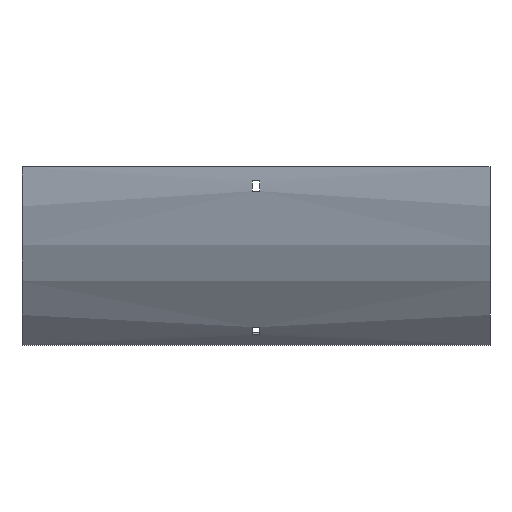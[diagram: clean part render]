
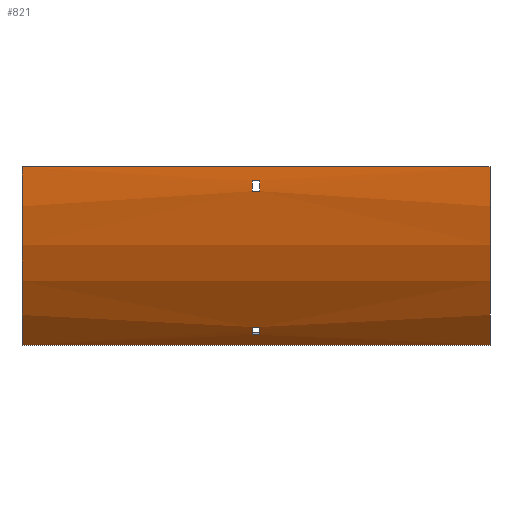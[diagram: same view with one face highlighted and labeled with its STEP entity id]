
A CAD part, front view. The second image highlights one B-rep face of the part: STEP entity #821.
In plain terms, the highlighted cylindrical face has radius 217.5 mm (diameter 435 mm), a partial arc.
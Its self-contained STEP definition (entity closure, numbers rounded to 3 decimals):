
#8 = CIRCLE ( 'NONE', #560, 217.5 ) ;
#28 = CARTESIAN_POINT ( 'NONE',  ( 202., 100., 0. ) ) ;
#43 = DIRECTION ( 'NONE',  ( 0., 0., -1. ) ) ;
#44 = ORIENTED_EDGE ( 'NONE', *, *, #430, .F. ) ;
#108 = DIRECTION ( 'NONE',  ( 0., 0., 1. ) ) ;
#112 = ORIENTED_EDGE ( 'NONE', *, *, #866, .T. ) ;
#114 = CIRCLE ( 'NONE', #768, 217.5 ) ;
#158 = EDGE_LOOP ( 'NONE', ( #959, #200, #1090, #247 ) ) ;
#170 = VECTOR ( 'NONE', #1234, 1000. ) ;
#195 = CARTESIAN_POINT ( 'NONE',  ( 202., -67.926, -138.228 ) ) ;
#200 = ORIENTED_EDGE ( 'NONE', *, *, #919, .F. ) ;
#201 = DIRECTION ( 'NONE',  ( -1., 0., 0. ) ) ;
#211 = CYLINDRICAL_SURFACE ( 'NONE', #547, 217.5 ) ;
#227 = CIRCLE ( 'NONE', #452, 217.5 ) ;
#238 = EDGE_CURVE ( 'NONE', #1002, #556, #8, .T. ) ;
#247 = ORIENTED_EDGE ( 'NONE', *, *, #626, .F. ) ;
#252 = AXIS2_PLACEMENT_3D ( 'NONE', #1495, #1367, #992 ) ;
#268 = CARTESIAN_POINT ( 'NONE',  ( -3.25, -62.047, -145.076 ) ) ;
#282 = DIRECTION ( 'NONE',  ( -1., 0., 0. ) ) ;
#292 = VERTEX_POINT ( 'NONE', #1014 ) ;
#365 = CARTESIAN_POINT ( 'NONE',  ( 202., 100., 0. ) ) ;
#375 = CARTESIAN_POINT ( 'NONE',  ( 202., -62.047, -145.076 ) ) ;
#385 = CARTESIAN_POINT ( 'NONE',  ( 202., -53.796, -153.796 ) ) ;
#397 = EDGE_LOOP ( 'NONE', ( #1625, #1164, #427, #112 ) ) ;
#406 = LINE ( 'NONE', #385, #531 ) ;
#427 = ORIENTED_EDGE ( 'NONE', *, *, #644, .T. ) ;
#430 = EDGE_CURVE ( 'NONE', #292, #1068, #406, .T. ) ;
#452 = AXIS2_PLACEMENT_3D ( 'NONE', #508, #1665, #620 ) ;
#458 = EDGE_CURVE ( 'NONE', #1122, #925, #1301, .T. ) ;
#480 = AXIS2_PLACEMENT_3D ( 'NONE', #667, #1218, #43 ) ;
#501 = CARTESIAN_POINT ( 'NONE',  ( 3.25, 100., 0. ) ) ;
#502 = VECTOR ( 'NONE', #891, 1000. ) ;
#508 = CARTESIAN_POINT ( 'NONE',  ( -3.25, 100., 0. ) ) ;
#531 = VECTOR ( 'NONE', #913, 1000. ) ;
#535 = ORIENTED_EDGE ( 'NONE', *, *, #700, .T. ) ;
#547 = AXIS2_PLACEMENT_3D ( 'NONE', #365, #201, #600 ) ;
#548 = CARTESIAN_POINT ( 'NONE',  ( -3.25, -117.169, -12. ) ) ;
#549 = EDGE_CURVE ( 'NONE', #637, #1068, #640, .T. ) ;
#556 = VERTEX_POINT ( 'NONE', #709 ) ;
#560 = AXIS2_PLACEMENT_3D ( 'NONE', #501, #1136, #108 ) ;
#570 = CARTESIAN_POINT ( 'NONE',  ( 3.25, -117.169, -12. ) ) ;
#600 = DIRECTION ( 'NONE',  ( 0., 0., 1. ) ) ;
#620 = DIRECTION ( 'NONE',  ( 0., 0., 1. ) ) ;
#626 = EDGE_CURVE ( 'NONE', #1172, #1002, #1013, .T. ) ;
#637 = VERTEX_POINT ( 'NONE', #1681 ) ;
#638 = EDGE_CURVE ( 'NONE', #925, #993, #227, .T. ) ;
#640 = CIRCLE ( 'NONE', #480, 217.5 ) ;
#644 = EDGE_CURVE ( 'NONE', #993, #1221, #750, .T. ) ;
#667 = CARTESIAN_POINT ( 'NONE',  ( -202., 100., 0. ) ) ;
#700 = EDGE_CURVE ( 'NONE', #860, #637, #754, .T. ) ;
#709 = CARTESIAN_POINT ( 'NONE',  ( 3.25, -67.926, -138.228 ) ) ;
#710 = VERTEX_POINT ( 'NONE', #1000 ) ;
#717 = CARTESIAN_POINT ( 'NONE',  ( -3.25, -116.484, -21. ) ) ;
#724 = CARTESIAN_POINT ( 'NONE',  ( 202., -117.5, 0. ) ) ;
#739 = DIRECTION ( 'NONE',  ( -1., 0., 0. ) ) ;
#750 = LINE ( 'NONE', #1288, #502 ) ;
#754 = LINE ( 'NONE', #1262, #1381 ) ;
#768 = AXIS2_PLACEMENT_3D ( 'NONE', #28, #1598, #1582 ) ;
#773 = VECTOR ( 'NONE', #282, 1000. ) ;
#821 = ADVANCED_FACE ( 'NONE', ( #1385, #859, #1535 ), #211, .T. ) ;
#831 = CARTESIAN_POINT ( 'NONE',  ( -202., -53.796, -153.796 ) ) ;
#859 = FACE_BOUND ( 'NONE', #397, .T. ) ;
#860 = VERTEX_POINT ( 'NONE', #724 ) ;
#866 = EDGE_CURVE ( 'NONE', #1221, #1122, #990, .T. ) ;
#891 = DIRECTION ( 'NONE',  ( 1., 0., 0. ) ) ;
#896 = CARTESIAN_POINT ( 'NONE',  ( 202., -116.484, -21. ) ) ;
#913 = DIRECTION ( 'NONE',  ( -1., 0., 0. ) ) ;
#919 = EDGE_CURVE ( 'NONE', #556, #710, #1355, .T. ) ;
#925 = VERTEX_POINT ( 'NONE', #717 ) ;
#959 = ORIENTED_EDGE ( 'NONE', *, *, #1011, .F. ) ;
#960 = DIRECTION ( 'NONE',  ( 1., 0., 0. ) ) ;
#990 = CIRCLE ( 'NONE', #252, 217.5 ) ;
#992 = DIRECTION ( 'NONE',  ( 0., 0., -1. ) ) ;
#993 = VERTEX_POINT ( 'NONE', #548 ) ;
#1000 = CARTESIAN_POINT ( 'NONE',  ( -3.25, -67.926, -138.228 ) ) ;
#1002 = VERTEX_POINT ( 'NONE', #1198 ) ;
#1011 = EDGE_CURVE ( 'NONE', #710, #1172, #1494, .T. ) ;
#1013 = LINE ( 'NONE', #375, #1318 ) ;
#1014 = CARTESIAN_POINT ( 'NONE',  ( 202., -53.796, -153.796 ) ) ;
#1068 = VERTEX_POINT ( 'NONE', #831 ) ;
#1090 = ORIENTED_EDGE ( 'NONE', *, *, #238, .F. ) ;
#1103 = DIRECTION ( 'NONE',  ( 0., 0., -1. ) ) ;
#1122 = VERTEX_POINT ( 'NONE', #1272 ) ;
#1136 = DIRECTION ( 'NONE',  ( -1., 0., 0. ) ) ;
#1164 = ORIENTED_EDGE ( 'NONE', *, *, #638, .T. ) ;
#1172 = VERTEX_POINT ( 'NONE', #268 ) ;
#1184 = AXIS2_PLACEMENT_3D ( 'NONE', #1592, #960, #1103 ) ;
#1198 = CARTESIAN_POINT ( 'NONE',  ( 3.25, -62.047, -145.076 ) ) ;
#1218 = DIRECTION ( 'NONE',  ( 1., 0., 0. ) ) ;
#1221 = VERTEX_POINT ( 'NONE', #570 ) ;
#1229 = ORIENTED_EDGE ( 'NONE', *, *, #1465, .F. ) ;
#1234 = DIRECTION ( 'NONE',  ( -1., 0., 0. ) ) ;
#1262 = CARTESIAN_POINT ( 'NONE',  ( 202., -117.5, 0. ) ) ;
#1272 = CARTESIAN_POINT ( 'NONE',  ( 3.25, -116.484, -21. ) ) ;
#1288 = CARTESIAN_POINT ( 'NONE',  ( 202., -117.169, -12. ) ) ;
#1301 = LINE ( 'NONE', #896, #773 ) ;
#1318 = VECTOR ( 'NONE', #1537, 1000. ) ;
#1324 = EDGE_LOOP ( 'NONE', ( #1348, #44, #1229, #535 ) ) ;
#1348 = ORIENTED_EDGE ( 'NONE', *, *, #549, .T. ) ;
#1355 = LINE ( 'NONE', #195, #170 ) ;
#1367 = DIRECTION ( 'NONE',  ( 1., 0., 0. ) ) ;
#1381 = VECTOR ( 'NONE', #739, 1000. ) ;
#1385 = FACE_OUTER_BOUND ( 'NONE', #1324, .T. ) ;
#1465 = EDGE_CURVE ( 'NONE', #860, #292, #114, .T. ) ;
#1494 = CIRCLE ( 'NONE', #1184, 217.5 ) ;
#1495 = CARTESIAN_POINT ( 'NONE',  ( 3.25, 100., 0. ) ) ;
#1535 = FACE_BOUND ( 'NONE', #158, .T. ) ;
#1537 = DIRECTION ( 'NONE',  ( 1., 0., 0. ) ) ;
#1582 = DIRECTION ( 'NONE',  ( 0., 0., -1. ) ) ;
#1592 = CARTESIAN_POINT ( 'NONE',  ( -3.25, 100., 0. ) ) ;
#1598 = DIRECTION ( 'NONE',  ( 1., 0., 0. ) ) ;
#1625 = ORIENTED_EDGE ( 'NONE', *, *, #458, .T. ) ;
#1665 = DIRECTION ( 'NONE',  ( -1., 0., 0. ) ) ;
#1681 = CARTESIAN_POINT ( 'NONE',  ( -202., -117.5, 0. ) ) ;
